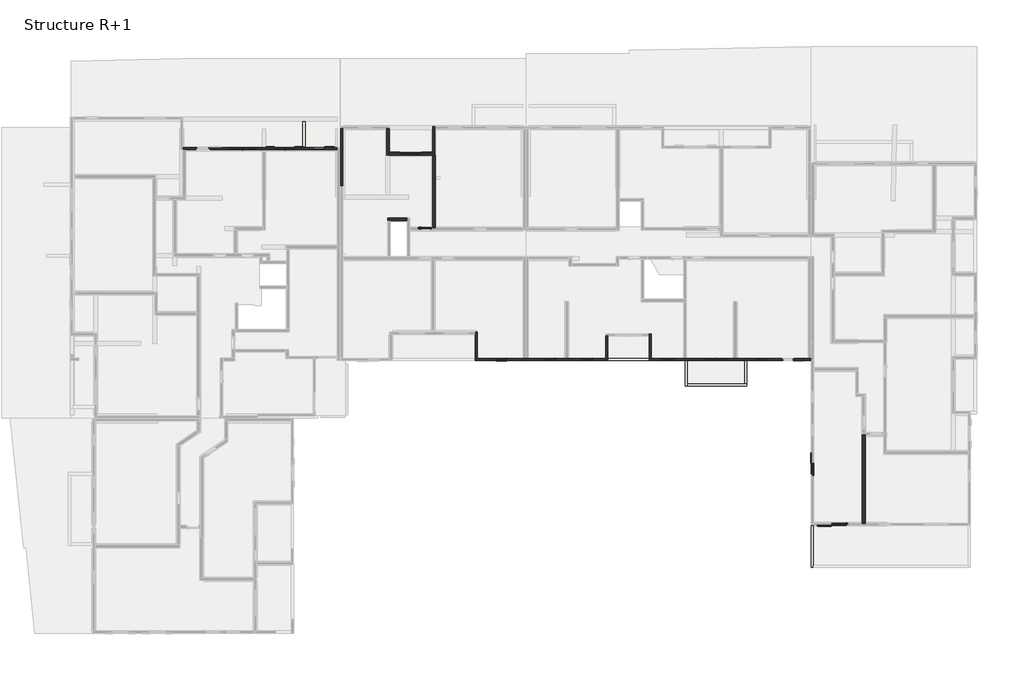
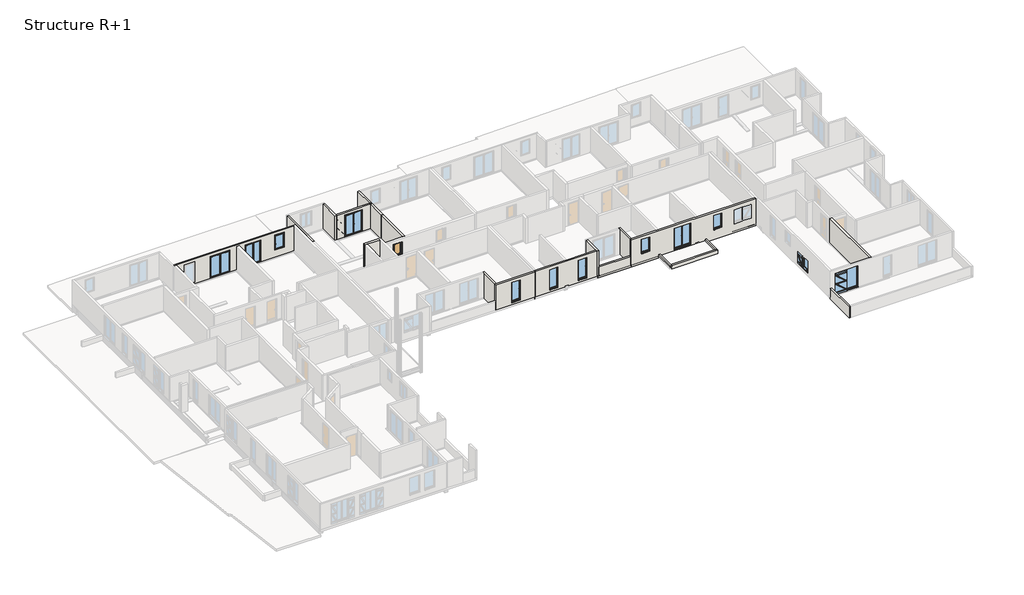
# One storey, part 4 of 11: 21 walls, 12 windows, 1 door.
"""IFC4 building model written with IfcOpenShell, lengths in millimetres."""

from ifc_helpers import new_model, si_unit, frame, origin, place, context, project, spatial, polyline, outline, extrude, faceted_brep, transform, mapped, element, save
from components import door_88e42b76, window_e9bb7084, window_2b853f76, window_0_80m_x_1_45m_ea18c776, window_0_80m_x_1_45m_510e4769, window_0_80m_x_2_05m_30132c93, window_1_10m_x_2_15m_8741d377, window_1_40m_x_2_15m_9bc1c939, window_1_60m_x_2_15m_1bfb613b, window_1_60m_x_2_15m_e7e592b5, window_1_80m_x_2_15m_7d3a4370

model = new_model("IFC4")

# Units and contexts
model_context = context("Model", 3, world=origin())
ifc_project = project(units=[si_unit("LENGTHUNIT", "METRE", prefix="MILLI")], contexts=[model_context])

# Site, building, storey
site = spatial("IfcSite", under=ifc_project)
building = spatial("IfcBuilding", under=site)
storey = spatial("IfcBuildingStorey", under=building, Name="Structure R+1", Elevation=3320.0)

# Door
placement = place(None, origin())
door_shape = door_88e42b76(model_context)
element("IfcDoor", 1, ObjectType="Entrée (avec angle d'ouverture) : PP Avec moulures (0.90 m x 2.15 m)", at=placement, inside=storey, context=model_context, shape_type="MappedRepresentation", body=[
    mapped(door_shape, transform((30232.3833363, 24372.4965623, 3320.0), x_axis=(1.0, 0.0, 0.0), y_axis=(0.0, 1.0, 0.0), z_axis=(0.0, 0.0, 1.0))),
])

# Walls
element("IfcWall", 2, ObjectType="Ext. Voile BA 16 + 2 + 2", at=placement, inside=storey, context=model_context, shape_type="Brep", body=[
    faceted_brep([(43935.5620379, 14457.4952897, 3030.0), (47212.2384282, 14457.4952897, 3030.0), (47212.2384282, 14457.4952897, 3230.0), (47132.2384282, 14457.4952897, 3230.0), (47132.2384282, 14457.4952897, 4130.0), (44015.5620379, 14457.4952897, 4130.0), (44015.5620379, 14457.4952897, 3230.0), (43935.5620379, 14457.4952897, 3230.0), (43935.5620379, 14617.4952897, 3030.0), (43935.5620379, 14617.4952897, 3230.0), (44015.5620379, 14617.4952897, 3230.0), (44015.5620379, 14617.4952897, 4130.0), (47132.2384282, 14617.4952897, 4130.0), (47132.2384282, 14617.4952897, 3230.0), (47212.2384282, 14617.4952897, 3230.0), (47212.2384282, 14617.4952897, 3030.0), (47212.2384282, 14457.838074, 3030.0), (47212.2384282, 14457.838074, 3230.0), (47132.2384282, 14457.838074, 3230.0)], [[[0, 1, 2, 3, 4, 5, 6, 7]], [[8, 9, 10, 11, 12, 13, 14, 15]], [[1, 0, 8, 15, 16]], [[5, 4, 12, 11]], [[2, 1, 16, 15, 14, 17]], [[13, 18, 3, 2, 17, 14]], [[4, 3, 18, 13, 12]], [[0, 7, 9, 8]], [[6, 10, 9, 7]], [[6, 5, 11, 10]]]),
])
element("IfcWall", 3, ObjectType="Ext. Voile BA 16 + 2 + 2", at=placement, inside=storey, context=model_context, shape_type="Brep", body=[
    faceted_brep([(49852.9658186, 14457.838074, 3230.0), (49852.9658186, 12537.4960288, 3230.0), (49852.9658186, 12537.4960288, 3380.0), (49852.9658186, 14457.838074, 3380.0), (50012.9658186, 14457.838074, 3230.0), (50012.9658186, 14457.838074, 3380.0), (50012.9658186, 12697.4960288, 3380.0), (50012.9658186, 12537.4960288, 3380.0), (50012.9658186, 12537.4960288, 3230.0)], [[[0, 1, 2, 3]], [[4, 5, 6, 7, 8]], [[1, 0, 4, 8]], [[3, 2, 7, 6, 5]], [[0, 3, 5, 4]], [[2, 1, 8, 7]]]),
])
element("IfcWall", 4, ObjectType="Ext. Voile BA 16 + 2 + 2", at=placement, inside=storey, context=model_context, shape_type="Brep", body=[
    faceted_brep([(50012.9658186, 12537.4960288, 3026.8), (54492.9658186, 12537.4960288, 3026.8), (54492.9658186, 12537.4960288, 3380.0), (50012.9658186, 12537.4960288, 3380.0), (50012.9658186, 12537.4960288, 3230.0), (50012.9658186, 12697.4960288, 3026.8), (50012.9658186, 12697.4960288, 3380.0), (54332.9658186, 12697.4960288, 3380.0), (54492.9658186, 12697.4960288, 3380.0), (54492.9658186, 12697.4960288, 3230.0), (54492.9658186, 12697.4960288, 3026.8)], [[[0, 1, 2, 3, 4]], [[5, 6, 7, 8, 9, 10]], [[1, 0, 5, 10]], [[3, 2, 8, 7, 6]], [[0, 4, 3, 6, 5]], [[2, 1, 10, 9, 8]]]),
])
element("IfcWall", 5, ObjectType="Ext. Voile BA 16 + 2 + 2", at=placement, inside=storey, context=model_context, shape_type="SweptSolid", body=[
    extrude(outline(polyline([(54492.9658186, 14457.838074), (54492.9658186, 12697.4960288), (54332.9658186, 12697.4960288), (54332.9658186, 14457.838074), (54492.9658186, 14457.838074)])), frame((0.0, 0.0, 3230.0), z_axis=(0.0, 0.0, 1.0), x_axis=(1.0, 0.0, 0.0)), (0.0, 0.0, 1.0), 150.0),
])
element("IfcWall", 6, ObjectType="Ext. Voile BA 16 + 2 + 2", at=placement, inside=storey, context=model_context, shape_type="Brep", body=[
    faceted_brep([(59332.9059955, 2104.0269927, 3030.0), (59332.9059955, -1157.3118451, 3030.0), (59332.9059955, -1157.3118451, 4130.0), (59332.9059955, 2024.0269927, 4130.0), (59332.9059955, 2024.0269927, 3230.0), (59332.9059955, 2104.0269927, 3230.0), (59492.9059955, 2024.0269927, 4130.0), (59492.9059955, -997.3118451, 4130.0), (59492.9059955, -1157.3118451, 4130.0), (59492.9059955, -1157.3118451, 3030.0), (59492.9059955, -1137.3140034, 3030.0), (59492.9059955, -1137.3140034, 3230.0), (59492.9059955, -997.3118451, 3230.0), (59492.9059955, 2024.0269927, 3230.0), (59352.9059955, 2104.0269927, 3030.0), (59353.9486146, 2104.0269927, 3030.0), (59353.9486146, -1137.3140034, 3030.0), (59352.9059955, 2104.0269927, 3230.0), (59353.9486146, 2104.0269927, 3230.0), (59352.9059955, 2024.0269927, 3230.0), (59353.9486146, 2024.0269927, 3230.0), (59353.9486146, -1137.3140034, 3230.0)], [[[0, 1, 2, 3, 4, 5]], [[6, 7, 8, 9, 10, 11, 12, 13]], [[1, 0, 14, 15, 16, 10, 9]], [[3, 2, 8, 7, 6]], [[2, 1, 9, 8]], [[0, 5, 17, 18, 15, 14]], [[5, 4, 19, 20, 18, 17]], [[3, 6, 13, 20, 19, 4]], [[21, 20, 13, 12, 11]], [[16, 21, 11, 10]], [[21, 16, 15, 18, 20]]]),
])
element("IfcWall", 7, ObjectType="Ext. Voile BA 16 + Isolant 120", at=placement, inside=storey, context=model_context, shape_type="Brep", body=[
    faceted_brep([(27364.3814808, 31947.4974719, 3230.0), (27364.3814808, 29952.4974719, 3230.0), (27364.3814808, 29952.4974719, 5830.0), (27364.3814808, 31947.4974719, 5830.0), (27524.3814808, 31947.4974719, 3230.0), (27524.3814808, 31947.4974719, 5830.0), (27524.3814808, 30112.4974719, 5830.0), (27524.3814808, 29952.4974719, 5830.0), (27524.3814808, 29952.4974719, 3230.0), (27524.3814808, 30112.4974719, 3230.0)], [[[0, 1, 2, 3]], [[4, 5, 6, 7, 8, 9]], [[1, 0, 4, 9, 8]], [[3, 2, 7, 6, 5]], [[0, 3, 5, 4]], [[2, 1, 8, 7]]]),
])
element("IfcWall", 8, ObjectType="Ext. Voile BA 16 + Isolant 120", at=placement, inside=storey, context=model_context, shape_type="Brep", body=[
    faceted_brep([(27524.3814808, 29952.4974719, 3230.0), (30802.3833363, 29952.4974719, 3230.0), (30984.3814808, 29952.4974719, 3230.0), (30984.3814808, 29952.4974719, 5830.0), (30802.3833363, 29952.4974719, 5830.0), (27524.3814808, 29952.4974719, 5830.0), (29974.3814808, 29952.4974719, 3355.0), (28374.3814808, 29952.4974719, 3355.0), (28324.3814808, 29952.4974719, 3355.0), (28324.3814808, 29952.4974719, 5555.0), (30024.3814808, 29952.4974719, 5555.0), (30024.3814808, 29952.4974719, 3355.0), (30984.3814808, 30112.4974719, 3230.0), (30824.3814808, 30112.4974719, 3230.0), (27524.3814808, 30112.4974719, 3230.0), (27524.3814808, 30112.4974719, 5830.0), (30824.3814808, 30112.4974719, 5830.0), (30984.3814808, 30112.4974719, 5830.0), (28374.3814808, 30112.4974719, 5505.0), (28374.3814808, 30112.4974719, 3346.5916612), (29974.3814808, 30112.4974719, 3346.5916612), (29974.3814808, 30112.4974719, 5505.0), (28374.3814808, 30052.4974719, 5505.0), (28374.3814808, 30052.4974719, 3355.0), (28374.3814808, 30032.4974719, 3355.0), (29974.3814808, 30032.4974719, 3355.0), (29974.3814808, 30052.4974719, 3355.0), (29974.3814808, 30052.4974719, 5505.0), (28364.3814808, 30052.4974719, 3355.0), (28364.3814808, 30002.4974719, 3355.0), (28324.3814808, 30002.4974719, 3355.0), (30024.3814808, 30002.4974719, 3355.0), (29984.3814808, 30002.4974719, 3355.0), (29984.3814808, 30052.4974719, 3355.0), (28324.3814808, 30002.4974719, 5555.0), (30024.3814808, 30002.4974719, 5555.0), (28364.3814808, 30002.4974719, 5515.0), (29984.3814808, 30002.4974719, 5515.0), (28364.3814808, 30052.4974719, 5515.0), (29984.3814808, 30052.4974719, 5515.0)], [[[0, 1, 2, 3, 4, 5], [6, 7, 8, 9, 10, 11]], [[12, 13, 14, 15, 16, 17], [18, 19, 20, 21]], [[2, 1, 0, 14, 13, 12]], [[5, 4, 3, 17, 16, 15]], [[0, 5, 15, 14]], [[3, 2, 12, 17]], [[22, 23, 24, 19, 18]], [[25, 26, 27, 21, 20]], [[24, 23, 28, 29, 30, 8, 7, 6, 11, 31, 32, 33, 26, 25]], [[27, 22, 18, 21]], [[24, 25, 20, 19]], [[8, 30, 34, 9]], [[32, 31, 35, 34, 30, 29, 36, 37]], [[29, 28, 38, 36]], [[23, 22, 27, 26, 33, 39, 38, 28]], [[9, 34, 35, 10]], [[37, 36, 38, 39]], [[31, 11, 10, 35]], [[33, 32, 37, 39]]]),
])
element("IfcWall", 9, ObjectType="Ext. Voile BA 16 + Isolant 120", at=placement, inside=storey, context=model_context, shape_type="Brep", body=[
    faceted_brep([(30984.3814808, 30112.4974719, 3230.0), (30984.3814808, 31947.4972516, 3230.0), (30984.3814808, 32107.4972516, 3230.0), (30984.3814808, 32107.4972516, 5830.0), (30984.3814808, 31947.4972516, 5830.0), (30984.3814808, 30112.4974719, 5830.0), (30824.3814808, 30112.4974719, 3230.0), (30824.3814808, 30112.4974719, 5830.0), (30824.3814808, 32107.4972516, 5830.0), (30824.3814808, 32107.4972516, 3230.0)], [[[0, 1, 2, 3, 4, 5]], [[6, 7, 8, 9]], [[2, 1, 0, 6, 9]], [[5, 4, 3, 8, 7]], [[0, 5, 7, 6]], [[3, 2, 9, 8]]]),
])
element("IfcWall", 10, ObjectType="Ext. Voile BA 16 + Isolant 120", at=placement, inside=storey, context=model_context, shape_type="Brep", body=[
    faceted_brep([(34012.3966699, 14597.8380864, 5830.0), (34172.3966699, 14597.8380864, 5830.0), (37647.390788, 14597.8380864, 5830.0), (37807.390788, 14597.8380864, 5830.0), (37808.3982717, 14597.8380864, 5830.0), (37808.3982717, 14597.8380864, 3030.0), (37807.390788, 14597.8380864, 3030.0), (37807.390788, 14597.8380864, 3230.0), (37647.390788, 14597.8380864, 3230.0), (34172.3966699, 14597.8380864, 3230.0), (34012.3966699, 14597.8380864, 3230.0), (35539.8937289, 14597.8380864, 3455.0), (36439.8937289, 14597.8380864, 3455.0), (36439.8937289, 14597.8380864, 5555.0), (35539.8937289, 14597.8380864, 5555.0), (37808.3982717, 14437.8380864, 5830.0), (34012.3966699, 14437.8380864, 5830.0), (34012.3966699, 14437.8380864, 3230.0), (37807.390788, 14437.8380864, 3230.0), (37807.390788, 14437.8380864, 3030.0), (37808.3982717, 14437.8380864, 3030.0), (36389.8937289, 14437.8380864, 5505.0), (36389.8937289, 14437.8380864, 3446.5916612), (35589.8937289, 14437.8380864, 3446.5916612), (35589.8937289, 14437.8380864, 5505.0), (36389.8937289, 14517.8380864, 3455.0), (36389.8937289, 14497.8380864, 5505.0), (36389.8937289, 14497.8380864, 3455.0), (35589.8937289, 14517.8380864, 3455.0), (35589.8937289, 14497.8380864, 3455.0), (35589.8937289, 14497.8380864, 5505.0), (36399.8937289, 14497.8380864, 3455.0), (36399.8937289, 14547.8380864, 3455.0), (36439.8937289, 14547.8380864, 3455.0), (35539.8937289, 14547.8380864, 3455.0), (35579.8937289, 14547.8380864, 3455.0), (35579.8937289, 14497.8380864, 3455.0), (36439.8937289, 14547.8380864, 5555.0), (36399.8937289, 14547.8380864, 5515.0), (35579.8937289, 14547.8380864, 5515.0), (35539.8937289, 14547.8380864, 5555.0), (36399.8937289, 14497.8380864, 5515.0), (35579.8937289, 14497.8380864, 5515.0)], [[[0, 1, 2, 3, 4, 5, 6, 7, 8, 9, 10], [11, 12, 13, 14]], [[15, 16, 17, 18, 19, 20], [21, 22, 23, 24]], [[5, 20, 19, 6]], [[4, 3, 2, 1, 0, 16, 15]], [[5, 4, 15, 20]], [[7, 18, 17, 10, 9, 8]], [[25, 22, 21, 26, 27]], [[23, 28, 29, 30, 24]], [[22, 25, 28, 23]], [[26, 21, 24, 30]], [[25, 27, 31, 32, 33, 12, 11, 34, 35, 36, 29, 28]], [[12, 33, 37, 13]], [[33, 32, 38, 39, 35, 34, 40, 37]], [[32, 31, 41, 38]], [[27, 26, 30, 29, 36, 42, 41, 31]], [[13, 37, 40, 14]], [[39, 38, 41, 42]], [[34, 11, 14, 40]], [[36, 35, 39, 42]], [[18, 7, 6, 19]], [[16, 0, 10, 17]]]),
])
element("IfcWall", 11, ObjectType="Ext. Voile BA 16 + Isolant 120", at=placement, inside=storey, context=model_context, shape_type="SweptSolid", body=[
    extrude(outline(polyline([(34172.3966699, 16591.4013077), (34172.3966699, 14597.8380864), (34012.3966699, 14597.8380864), (34012.3966699, 16591.4013077), (34172.3966699, 16591.4013077)])), frame((0.0, 0.0, 3230.0), z_axis=(0.0, 0.0, 1.0), x_axis=(1.0, 0.0, 0.0)), (0.0, 0.0, 1.0), 2600.0),
])
element("IfcWall", 12, ObjectType="Ext. Voile BA 16 + Isolant 120", at=placement, inside=storey, context=model_context, shape_type="SweptSolid", body=[
    extrude(outline(polyline([(24031.9389593, 31947.4974719), (24031.9389593, 27617.8380864), (23871.9389593, 27617.8380864), (23871.9389593, 31947.4974719), (24031.9389593, 31947.4974719)])), frame((0.0, 0.0, 3230.0), z_axis=(0.0, 0.0, 1.0), x_axis=(1.0, 0.0, 0.0)), (0.0, 0.0, 1.0), 2600.0),
])
element("IfcWall", 13, ObjectType="Ext. Voile BA 16 + Isolant 120", at=placement, inside=storey, context=model_context, shape_type="Brep", body=[
    faceted_brep([(11991.9058449, 30350.6398567, 3230.0), (12191.8651786, 30350.6398567, 3230.0), (23619.3795366, 30350.6398567, 3230.0), (23619.3795366, 30350.6398567, 5830.0), (12191.8651786, 30350.6398567, 5830.0), (11991.9058449, 30350.6398567, 5830.0), (13991.9058449, 30350.6398567, 3455.0), (12991.9058449, 30350.6398567, 3455.0), (12991.9058449, 30350.6398567, 5555.0), (13991.9058449, 30350.6398567, 5555.0), (17401.9058449, 30350.6398567, 3355.0), (15501.9058449, 30350.6398567, 3355.0), (15501.9058449, 30350.6398567, 5555.0), (17401.9058449, 30350.6398567, 5555.0), (20401.9058449, 30350.6398567, 3355.0), (18901.9058449, 30350.6398567, 3355.0), (18901.9058449, 30350.6398567, 5555.0), (20401.9058449, 30350.6398567, 5555.0), (22669.3795366, 30350.6398567, 4055.0), (21769.3795366, 30350.6398567, 4055.0), (21769.3795366, 30350.6398567, 5555.0), (22669.3795366, 30350.6398567, 5555.0), (11991.9058449, 30510.6398567, 3230.0), (11991.9058449, 30510.6398567, 5830.0), (21211.3655761, 30510.6398567, 5830.0), (23619.3795366, 30510.6398567, 5830.0), (23619.3795366, 30510.6398567, 3230.0), (13041.9058449, 30510.6398567, 5505.0), (13041.9058449, 30510.6398567, 3446.5916612), (13941.9058449, 30510.6398567, 3446.5916612), (13941.9058449, 30510.6398567, 5505.0), (15551.9058449, 30510.6398567, 5505.0), (15551.9058449, 30510.6398567, 3346.5916612), (17351.9058449, 30510.6398567, 3346.5916612), (17351.9058449, 30510.6398567, 5505.0), (18951.9058449, 30510.6398567, 5505.0), (18951.9058449, 30510.6398567, 3346.5916612), (20351.9058449, 30510.6398567, 3346.5916612), (20351.9058449, 30510.6398567, 5505.0), (21819.3795366, 30510.6398567, 5505.0), (21819.3795366, 30510.6398567, 3975.0), (22619.3795366, 30510.6398567, 3975.0), (22619.3795366, 30510.6398567, 5505.0), (23619.3795366, 30490.6398567, 5830.0), (13041.9058449, 30430.6398567, 3455.0), (13041.9058449, 30450.6398567, 5505.0), (13041.9058449, 30450.6398567, 3455.0), (13941.9058449, 30430.6398567, 3455.0), (13941.9058449, 30450.6398567, 3455.0), (13941.9058449, 30450.6398567, 5505.0), (13031.9058449, 30450.6398567, 3455.0), (13031.9058449, 30400.6398567, 3455.0), (12991.9058449, 30400.6398567, 3455.0), (13991.9058449, 30400.6398567, 3455.0), (13951.9058449, 30400.6398567, 3455.0), (13951.9058449, 30450.6398567, 3455.0), (12991.9058449, 30400.6398567, 5555.0), (13031.9058449, 30400.6398567, 5515.0), (13951.9058449, 30400.6398567, 5515.0), (13991.9058449, 30400.6398567, 5555.0), (13031.9058449, 30450.6398567, 5515.0), (13951.9058449, 30450.6398567, 5515.0), (15551.9058449, 30430.6398567, 3355.0), (15551.9058449, 30450.6398567, 5505.0), (15551.9058449, 30450.6398567, 3355.0), (17351.9058449, 30430.6398567, 3355.0), (17351.9058449, 30450.6398567, 3355.0), (17351.9058449, 30450.6398567, 5505.0), (15541.9058449, 30450.6398567, 3355.0), (15541.9058449, 30400.6398567, 3355.0), (15501.9058449, 30400.6398567, 3355.0), (17401.9058449, 30400.6398567, 3355.0), (17361.9058449, 30400.6398567, 3355.0), (17361.9058449, 30450.6398567, 3355.0), (15501.9058449, 30400.6398567, 5555.0), (15541.9058449, 30400.6398567, 5515.0), (17361.9058449, 30400.6398567, 5515.0), (17401.9058449, 30400.6398567, 5555.0), (15541.9058449, 30450.6398567, 5515.0), (17361.9058449, 30450.6398567, 5515.0), (18951.9058449, 30430.6398567, 3355.0), (18951.9058449, 30450.6398567, 5505.0), (18951.9058449, 30450.6398567, 3355.0), (20351.9058449, 30430.6398567, 3355.0), (20351.9058449, 30450.6398567, 3355.0), (20351.9058449, 30450.6398567, 5505.0), (18941.9058449, 30450.6398567, 3355.0), (18941.9058449, 30400.6398567, 3355.0), (18901.9058449, 30400.6398567, 3355.0), (20401.9058449, 30400.6398567, 3355.0), (20361.9058449, 30400.6398567, 3355.0), (20361.9058449, 30450.6398567, 3355.0), (18901.9058449, 30400.6398567, 5555.0), (18941.9058449, 30400.6398567, 5515.0), (20361.9058449, 30400.6398567, 5515.0), (20401.9058449, 30400.6398567, 5555.0), (18941.9058449, 30450.6398567, 5515.0), (20361.9058449, 30450.6398567, 5515.0), (21819.3795366, 30430.6398567, 4055.0), (21819.3795366, 30430.6398567, 3975.0), (21819.3795366, 30450.6398567, 5505.0), (21819.3795366, 30450.6398567, 4055.0), (22619.3795366, 30430.6398567, 3975.0), (22619.3795366, 30430.6398567, 4055.0), (22619.3795366, 30450.6398567, 4055.0), (22619.3795366, 30450.6398567, 5505.0), (21809.3795366, 30450.6398567, 4055.0), (21809.3795366, 30400.6398567, 4055.0), (21769.3795366, 30400.6398567, 4055.0), (22669.3795366, 30400.6398567, 4055.0), (22629.3795366, 30400.6398567, 4055.0), (22629.3795366, 30450.6398567, 4055.0), (21769.3795366, 30400.6398567, 5555.0), (21809.3795366, 30400.6398567, 5515.0), (22629.3795366, 30400.6398567, 5515.0), (22669.3795366, 30400.6398567, 5555.0), (21809.3795366, 30450.6398567, 5515.0), (22629.3795366, 30450.6398567, 5515.0)], [[[0, 1, 2, 3, 4, 5], [6, 7, 8, 9], [10, 11, 12, 13], [14, 15, 16, 17], [18, 19, 20, 21]], [[22, 23, 24, 25, 26], [27, 28, 29, 30], [31, 32, 33, 34], [35, 36, 37, 38], [39, 40, 41, 42]], [[2, 1, 0, 22, 26]], [[5, 4, 3, 43, 25, 24, 23]], [[0, 5, 23, 22]], [[44, 28, 27, 45, 46]], [[29, 47, 48, 49, 30]], [[44, 47, 29, 28]], [[27, 30, 49, 45]], [[47, 44, 46, 50, 51, 52, 7, 6, 53, 54, 55, 48]], [[7, 52, 56, 8]], [[52, 51, 57, 58, 54, 53, 59, 56]], [[51, 50, 60, 57]], [[50, 46, 45, 49, 48, 55, 61, 60]], [[8, 56, 59, 9]], [[58, 57, 60, 61]], [[59, 53, 6, 9]], [[54, 58, 61, 55]], [[62, 32, 31, 63, 64]], [[33, 65, 66, 67, 34]], [[62, 65, 33, 32]], [[31, 34, 67, 63]], [[65, 62, 64, 68, 69, 70, 11, 10, 71, 72, 73, 66]], [[11, 70, 74, 12]], [[70, 69, 75, 76, 72, 71, 77, 74]], [[69, 68, 78, 75]], [[68, 64, 63, 67, 66, 73, 79, 78]], [[12, 74, 77, 13]], [[76, 75, 78, 79]], [[77, 71, 10, 13]], [[72, 76, 79, 73]], [[80, 36, 35, 81, 82]], [[37, 83, 84, 85, 38]], [[80, 83, 37, 36]], [[35, 38, 85, 81]], [[83, 80, 82, 86, 87, 88, 15, 14, 89, 90, 91, 84]], [[15, 88, 92, 16]], [[88, 87, 93, 94, 90, 89, 95, 92]], [[87, 86, 96, 93]], [[86, 82, 81, 85, 84, 91, 97, 96]], [[16, 92, 95, 17]], [[94, 93, 96, 97]], [[95, 89, 14, 17]], [[90, 94, 97, 91]], [[98, 99, 40, 39, 100, 101]], [[102, 103, 104, 105, 42, 41]], [[99, 102, 41, 40]], [[99, 98, 103, 102]], [[39, 42, 105, 100]], [[103, 98, 101, 106, 107, 108, 19, 18, 109, 110, 111, 104]], [[19, 108, 112, 20]], [[108, 107, 113, 114, 110, 109, 115, 112]], [[107, 106, 116, 113]], [[106, 101, 100, 105, 104, 111, 117, 116]], [[20, 112, 115, 21]], [[114, 113, 116, 117]], [[115, 109, 18, 21]], [[110, 114, 117, 111]], [[2, 26, 25, 43, 3]]]),
])
element("IfcWall", 14, ObjectType="Ext. Voile BA 16 + Isolant 120", at=placement, inside=storey, context=model_context, shape_type="Brep", body=[
    faceted_brep([(59292.9632272, 14617.838074, 3030.0), (47212.2384282, 14617.838074, 3030.0), (47212.2384282, 14617.838074, 3230.0), (47132.2384282, 14617.838074, 3230.0), (47132.2384282, 14617.838074, 5830.0), (47292.2384282, 14617.838074, 5830.0), (49725.0121044, 14617.838074, 5830.0), (49925.0121044, 14617.838074, 5830.0), (53510.2357198, 14617.838074, 5830.0), (53710.2357198, 14617.838074, 5830.0), (59132.9632272, 14617.838074, 5830.0), (59292.9632272, 14617.838074, 5830.0), (59292.9632272, 14617.838074, 3230.0), (51321.5533494, 14617.838074, 3355.0), (53021.5533494, 14617.838074, 3355.0), (53021.5533494, 14617.838074, 5555.0), (51321.5533494, 14617.838074, 5555.0), (55131.1686301, 14617.838074, 4055.0), (56031.1686301, 14617.838074, 4055.0), (56031.1686301, 14617.838074, 5555.0), (55131.1686301, 14617.838074, 5555.0), (48128.6252663, 14617.838074, 4055.0), (49028.6252663, 14617.838074, 4055.0), (49028.6252663, 14617.838074, 5555.0), (48128.6252663, 14617.838074, 5555.0), (57127.7427462, 14617.838074, 4055.0), (58027.7427462, 14617.838074, 4055.0), (58027.7427462, 14617.838074, 5455.0), (57127.7427462, 14617.838074, 5455.0), (59292.9632272, 14457.838074, 3030.0), (59292.9632272, 14457.838074, 5830.0), (47132.2384282, 14457.838074, 5830.0), (47132.2384282, 14457.838074, 3230.0), (47212.2384282, 14457.838074, 3230.0), (47212.2384282, 14457.838074, 3030.0), (52971.5533494, 14457.838074, 5505.0), (52971.5533494, 14457.838074, 3346.5916612), (51371.5533494, 14457.838074, 3346.5916612), (51371.5533494, 14457.838074, 5505.0), (55181.1686301, 14457.838074, 4046.5916612), (55181.1686301, 14457.838074, 5505.0), (55981.1686301, 14457.838074, 5505.0), (55981.1686301, 14457.838074, 4046.5916612), (48978.6252663, 14457.838074, 5505.0), (48978.6252663, 14457.838074, 4046.5916612), (48178.6252663, 14457.838074, 4046.5916612), (48178.6252663, 14457.838074, 5505.0), (57177.7427462, 14457.838074, 3975.0), (57177.7427462, 14457.838074, 5405.0), (57977.7427462, 14457.838074, 5405.0), (57977.7427462, 14457.838074, 3975.0), (47212.2384282, 14617.4952897, 3030.0), (52971.5533494, 14537.838074, 3355.0), (52971.5533494, 14517.838074, 5505.0), (52971.5533494, 14517.838074, 3355.0), (51371.5533494, 14537.838074, 3355.0), (51371.5533494, 14517.838074, 3355.0), (51371.5533494, 14517.838074, 5505.0), (52981.5533494, 14517.838074, 3355.0), (52981.5533494, 14567.838074, 3355.0), (53021.5533494, 14567.838074, 3355.0), (51321.5533494, 14567.838074, 3355.0), (51361.5533494, 14567.838074, 3355.0), (51361.5533494, 14517.838074, 3355.0), (53021.5533494, 14567.838074, 5555.0), (52981.5533494, 14567.838074, 5515.0), (51361.5533494, 14567.838074, 5515.0), (51321.5533494, 14567.838074, 5555.0), (52981.5533494, 14517.838074, 5515.0), (51361.5533494, 14517.838074, 5515.0), (55181.1686301, 14537.838074, 4055.0), (55181.1686301, 14517.838074, 4055.0), (55181.1686301, 14517.838074, 5505.0), (55981.1686301, 14517.838074, 5505.0), (55981.1686301, 14517.838074, 4055.0), (55981.1686301, 14537.838074, 4055.0), (55991.1686301, 14517.838074, 4055.0), (55991.1686301, 14567.838074, 4055.0), (56031.1686301, 14567.838074, 4055.0), (55131.1686301, 14567.838074, 4055.0), (55171.1686301, 14567.838074, 4055.0), (55171.1686301, 14517.838074, 4055.0), (55131.1686301, 14567.838074, 5555.0), (56031.1686301, 14567.838074, 5555.0), (55991.1686301, 14567.838074, 5515.0), (55171.1686301, 14567.838074, 5515.0), (55171.1686301, 14517.838074, 5515.0), (55991.1686301, 14517.838074, 5515.0), (48978.6252663, 14537.838074, 4055.0), (48978.6252663, 14517.838074, 5505.0), (48978.6252663, 14517.838074, 4055.0), (48178.6252663, 14537.838074, 4055.0), (48178.6252663, 14517.838074, 4055.0), (48178.6252663, 14517.838074, 5505.0), (48988.6252663, 14517.838074, 4055.0), (48988.6252663, 14567.838074, 4055.0), (49028.6252663, 14567.838074, 4055.0), (48128.6252663, 14567.838074, 4055.0), (48168.6252663, 14567.838074, 4055.0), (48168.6252663, 14517.838074, 4055.0), (49028.6252663, 14567.838074, 5555.0), (48988.6252663, 14567.838074, 5515.0), (48168.6252663, 14567.838074, 5515.0), (48128.6252663, 14567.838074, 5555.0), (48988.6252663, 14517.838074, 5515.0), (48168.6252663, 14517.838074, 5515.0), (47212.2384282, 14617.4952897, 3230.0), (47132.2384282, 14617.4952897, 3230.0), (57177.7427462, 14537.838074, 4055.0), (57177.7427462, 14517.838074, 4055.0), (57177.7427462, 14517.838074, 5405.0), (57177.7427462, 14537.838074, 3975.0), (57977.7427462, 14537.838074, 3975.0), (57977.7427462, 14517.838074, 5405.0), (57977.7427462, 14517.838074, 4055.0), (57977.7427462, 14537.838074, 4055.0), (57987.7427462, 14517.838074, 4055.0), (57987.7427462, 14567.838074, 4055.0), (58027.7427462, 14567.838074, 4055.0), (57127.7427462, 14567.838074, 4055.0), (57167.7427462, 14567.838074, 4055.0), (57167.7427462, 14517.838074, 4055.0), (57127.7427462, 14567.838074, 5455.0), (58027.7427462, 14567.838074, 5455.0), (57987.7427462, 14567.838074, 5415.0), (57167.7427462, 14567.838074, 5415.0), (57167.7427462, 14517.838074, 5415.0), (57987.7427462, 14517.838074, 5415.0)], [[[0, 1, 2, 3, 4, 5, 6, 7, 8, 9, 10, 11, 12], [13, 14, 15, 16], [17, 18, 19, 20], [21, 22, 23, 24], [25, 26, 27, 28]], [[29, 30, 31, 32, 33, 34], [35, 36, 37, 38], [39, 40, 41, 42], [43, 44, 45, 46], [47, 48, 49, 50]], [[1, 0, 29, 34, 51]], [[11, 10, 9, 8, 7, 6, 5, 4, 31, 30]], [[0, 12, 11, 30, 29]], [[52, 36, 35, 53, 54]], [[37, 55, 56, 57, 38]], [[52, 55, 37, 36]], [[35, 38, 57, 53]], [[55, 52, 54, 58, 59, 60, 14, 13, 61, 62, 63, 56]], [[14, 60, 64, 15]], [[60, 59, 65, 66, 62, 61, 67, 64]], [[59, 58, 68, 65]], [[58, 54, 53, 57, 56, 63, 69, 68]], [[15, 64, 67, 16]], [[66, 65, 68, 69]], [[67, 61, 13, 16]], [[62, 66, 69, 63]], [[70, 71, 72, 40, 39]], [[42, 41, 73, 74, 75]], [[70, 39, 42, 75]], [[40, 72, 73, 41]], [[75, 74, 76, 77, 78, 18, 17, 79, 80, 81, 71, 70]], [[17, 20, 82, 79]], [[79, 82, 83, 78, 77, 84, 85, 80]], [[80, 85, 86, 81]], [[81, 86, 87, 76, 74, 73, 72, 71]], [[20, 19, 83, 82]], [[84, 87, 86, 85]], [[83, 19, 18, 78]], [[77, 76, 87, 84]], [[88, 44, 43, 89, 90]], [[45, 91, 92, 93, 46]], [[88, 91, 45, 44]], [[43, 46, 93, 89]], [[91, 88, 90, 94, 95, 96, 22, 21, 97, 98, 99, 92]], [[22, 96, 100, 23]], [[96, 95, 101, 102, 98, 97, 103, 100]], [[95, 94, 104, 101]], [[94, 90, 89, 93, 92, 99, 105, 104]], [[23, 100, 103, 24]], [[102, 101, 104, 105]], [[103, 97, 21, 24]], [[98, 102, 105, 99]], [[2, 1, 51, 34, 33, 106]], [[32, 107, 3, 2, 106, 33]], [[108, 109, 110, 48, 47, 111]], [[112, 50, 49, 113, 114, 115]], [[111, 47, 50, 112]], [[48, 110, 113, 49]], [[115, 114, 116, 117, 118, 26, 25, 119, 120, 121, 109, 108]], [[25, 28, 122, 119]], [[119, 122, 123, 118, 117, 124, 125, 120]], [[120, 125, 126, 121]], [[121, 126, 127, 116, 114, 113, 110, 109]], [[28, 27, 123, 122]], [[124, 127, 126, 125]], [[123, 27, 26, 118]], [[117, 116, 127, 124]], [[111, 112, 115, 108]], [[3, 107, 32, 31, 4]]]),
])
element("IfcWall", 15, ObjectType="Ext. Voile BA 16 + Isolant 120", at=placement, inside=storey, context=model_context, shape_type="Brep", body=[
    faceted_brep([(47292.2384282, 14617.838074, 5830.0), (47292.2384282, 14617.838074, 3230.0), (47292.2384282, 16448.2809457, 3230.0), (47292.2384282, 16448.2809457, 5830.0), (47132.2384282, 14617.838074, 3230.0), (47132.2384282, 14617.838074, 5830.0), (47132.2384282, 16288.2809457, 5830.0), (47132.2384282, 16448.2809457, 5830.0), (47132.2384282, 16448.2809457, 3230.0), (47132.2384282, 16288.2809457, 3230.0), (47212.2384282, 14617.838074, 3230.0)], [[[0, 1, 2, 3]], [[4, 5, 6, 7, 8, 9]], [[2, 1, 10, 4, 9, 8]], [[0, 3, 7, 6, 5]], [[3, 2, 8, 7]], [[0, 5, 4, 10, 1]]]),
])
element("IfcWall", 16, ObjectType="Ext. Voile BA 16 + Isolant 120", at=placement, inside=storey, context=model_context, shape_type="Brep", body=[
    faceted_brep([(43855.5620379, 16288.2809457, 3230.0), (43855.5620379, 14617.4952897, 3230.0), (43855.5620379, 14457.4952897, 3230.0), (43855.5620379, 14457.4952897, 5830.0), (43855.5620379, 14617.4952897, 5830.0), (43855.5620379, 16288.2809457, 5830.0), (44015.5620379, 16288.2809457, 3230.0), (44015.5620379, 16288.2809457, 5830.0), (44015.5620379, 14457.4952897, 5830.0), (44015.5620379, 14457.4952897, 4130.0), (44015.5620379, 14457.4952897, 3230.0), (44015.5620379, 14617.4952897, 3230.0), (43935.5620379, 14457.4952897, 3230.0)], [[[0, 1, 2, 3, 4, 5]], [[6, 7, 8, 9, 10, 11]], [[2, 1, 0, 6, 11, 10, 12]], [[5, 4, 3, 8, 7]], [[0, 5, 7, 6]], [[2, 12, 10, 9, 8, 3]]]),
])
element("IfcWall", 17, ObjectType="Ext. Voile BA 16 + Isolant 120", at=placement, inside=storey, context=model_context, shape_type="Brep", body=[
    faceted_brep([(37867.390788, 14617.4952897, 5830.0), (38027.390788, 14617.4952897, 5830.0), (40827.3913304, 14617.4952897, 5830.0), (41027.3913304, 14617.4952897, 5830.0), (43855.5620379, 14617.4952897, 5830.0), (43855.5620379, 14617.4952897, 3230.0), (41027.3913304, 14617.4952897, 3230.0), (40827.3913304, 14617.4952897, 3230.0), (38027.390788, 14617.4952897, 3230.0), (37867.390788, 14617.4952897, 3230.0), (42000.5620379, 14617.4952897, 3455.0), (42900.5620379, 14617.4952897, 3455.0), (42900.5620379, 14617.4952897, 5555.0), (42000.5620379, 14617.4952897, 5555.0), (39217.3913304, 14617.4952897, 3455.0), (40117.3913304, 14617.4952897, 3455.0), (40117.3913304, 14617.4952897, 5555.0), (39217.3913304, 14617.4952897, 5555.0), (43855.5620379, 14457.4952897, 5830.0), (37867.390788, 14457.4952897, 5830.0), (37867.390788, 14457.4952897, 3230.0), (43855.5620379, 14457.4952897, 3230.0), (42850.5620379, 14457.4952897, 5505.0), (42850.5620379, 14457.4952897, 3446.5916612), (42050.5620379, 14457.4952897, 3446.5916612), (42050.5620379, 14457.4952897, 5505.0), (40067.3913304, 14457.4952897, 5505.0), (40067.3913304, 14457.4952897, 3446.5916612), (39267.3913304, 14457.4952897, 3446.5916612), (39267.3913304, 14457.4952897, 5505.0), (42850.5620379, 14537.4952897, 3455.0), (42850.5620379, 14517.4952897, 5505.0), (42850.5620379, 14517.4952897, 3455.0), (42050.5620379, 14537.4952897, 3455.0), (42050.5620379, 14517.4952897, 3455.0), (42050.5620379, 14517.4952897, 5505.0), (42860.5620379, 14517.4952897, 3455.0), (42860.5620379, 14567.4952897, 3455.0), (42900.5620379, 14567.4952897, 3455.0), (42000.5620379, 14567.4952897, 3455.0), (42040.5620379, 14567.4952897, 3455.0), (42040.5620379, 14517.4952897, 3455.0), (42900.5620379, 14567.4952897, 5555.0), (42860.5620379, 14567.4952897, 5515.0), (42040.5620379, 14567.4952897, 5515.0), (42000.5620379, 14567.4952897, 5555.0), (42860.5620379, 14517.4952897, 5515.0), (42040.5620379, 14517.4952897, 5515.0), (40067.3913304, 14537.4952897, 3455.0), (40067.3913304, 14517.4952897, 5505.0), (40067.3913304, 14517.4952897, 3455.0), (39267.3913304, 14537.4952897, 3455.0), (39267.3913304, 14517.4952897, 3455.0), (39267.3913304, 14517.4952897, 5505.0), (40077.3913304, 14517.4952897, 3455.0), (40077.3913304, 14567.4952897, 3455.0), (40117.3913304, 14567.4952897, 3455.0), (39217.3913304, 14567.4952897, 3455.0), (39257.3913304, 14567.4952897, 3455.0), (39257.3913304, 14517.4952897, 3455.0), (40117.3913304, 14567.4952897, 5555.0), (40077.3913304, 14567.4952897, 5515.0), (39257.3913304, 14567.4952897, 5515.0), (39217.3913304, 14567.4952897, 5555.0), (40077.3913304, 14517.4952897, 5515.0), (39257.3913304, 14517.4952897, 5515.0)], [[[0, 1, 2, 3, 4, 5, 6, 7, 8, 9], [10, 11, 12, 13], [14, 15, 16, 17]], [[18, 19, 20, 21], [22, 23, 24, 25], [26, 27, 28, 29]], [[4, 3, 2, 1, 0, 19, 18]], [[19, 0, 9, 20]], [[30, 23, 22, 31, 32]], [[24, 33, 34, 35, 25]], [[23, 30, 33, 24]], [[31, 22, 25, 35]], [[30, 32, 36, 37, 38, 11, 10, 39, 40, 41, 34, 33]], [[11, 38, 42, 12]], [[38, 37, 43, 44, 40, 39, 45, 42]], [[37, 36, 46, 43]], [[32, 31, 35, 34, 41, 47, 46, 36]], [[12, 42, 45, 13]], [[44, 43, 46, 47]], [[39, 10, 13, 45]], [[41, 40, 44, 47]], [[48, 27, 26, 49, 50]], [[28, 51, 52, 53, 29]], [[27, 48, 51, 28]], [[49, 26, 29, 53]], [[48, 50, 54, 55, 56, 15, 14, 57, 58, 59, 52, 51]], [[15, 56, 60, 16]], [[56, 55, 61, 62, 58, 57, 63, 60]], [[55, 54, 64, 61]], [[50, 49, 53, 52, 59, 65, 64, 54]], [[16, 60, 63, 17]], [[62, 61, 64, 65]], [[57, 14, 17, 63]], [[59, 58, 62, 65]], [[4, 18, 21, 5]], [[9, 8, 7, 6, 5, 21, 20]]]),
])
element("IfcWall", 18, ObjectType="Voile BA 20", at=placement, inside=storey, context=model_context, shape_type="SweptSolid", body=[
    extrude(outline(polyline([(30802.3833363, 24472.4965623), (30802.3833363, 28084.2382335), (31002.3833363, 28084.2382335), (31002.3833363, 24472.4965623), (30802.3833363, 24472.4965623)])), frame((0.0, 0.0, 3230.0), z_axis=(0.0, 0.0, 1.0), x_axis=(1.0, 0.0, 0.0)), (0.0, 0.0, 1.0), 2600.0),
])
element("IfcWall", 19, ObjectType="Voile BA 20", at=placement, inside=storey, context=model_context, shape_type="Brep", body=[
    faceted_brep([(63197.9323598, 8825.43291, 3230.0), (63197.9323598, 2264.0303718, 3230.0), (63197.9323598, 2184.0269927, 3230.0), (63197.9323598, 2184.0269927, 3320.0), (63197.9323598, 2184.0269927, 5830.0), (63197.9323598, 8825.43291, 5830.0), (63397.9323598, 8825.43291, 3230.0), (63397.9323598, 8825.43291, 3320.0), (63397.9323598, 8825.43291, 5830.0), (63397.9323598, 2184.0269927, 5830.0), (63397.9323598, 2184.0269927, 3320.0), (63397.9323598, 2184.0269927, 3230.0), (63397.9323598, 2264.0303718, 3230.0)], [[[0, 1, 2, 3, 4, 5]], [[6, 7, 8, 9, 10, 11, 12]], [[2, 1, 0, 6, 12, 11]], [[5, 4, 9, 8]], [[4, 3, 2, 11, 10, 9]], [[0, 5, 8, 7, 6]]]),
])
element("IfcWall", 20, ObjectType="Voile BA 20", at=placement, inside=storey, context=model_context, shape_type="Brep", body=[
    faceted_brep([(21211.383495, 30490.6398567, 2710.0), (21211.383495, 32800.6398567, 2710.0), (21211.383495, 32800.6398567, 3230.0), (21211.383495, 30490.6398567, 3230.0), (21011.383495, 30490.6398567, 2710.0), (21011.383495, 30490.6398567, 3230.0), (21011.383495, 32600.6398567, 3230.0), (21011.383495, 32800.6398567, 3230.0), (21011.383495, 32800.6398567, 2710.0), (21011.383495, 32600.6398567, 2710.0)], [[[0, 1, 2, 3]], [[4, 5, 6, 7, 8, 9]], [[2, 1, 8, 7]], [[1, 0, 4, 9, 8]], [[3, 2, 7, 6, 5]], [[0, 3, 5, 4]]]),
])
element("IfcWall", 21, ObjectType="Voile BA 20 + Isolant 120", at=placement, inside=storey, context=model_context, shape_type="Brep", body=[
    faceted_brep([(30802.3833363, 29952.4974719, 3230.0), (30802.3833363, 28084.2382335, 3230.0), (30802.3833363, 28084.2382335, 5830.0), (30802.3833363, 29952.4974719, 5830.0), (31002.3833363, 29952.4974719, 3230.0), (31002.3833363, 29952.4974719, 5830.0), (31002.3833363, 28084.2382335, 5830.0), (31002.3833363, 28084.2382335, 3230.0), (30984.3814808, 29952.4974719, 3230.0), (30984.3814808, 29952.4974719, 5830.0)], [[[0, 1, 2, 3]], [[4, 5, 6, 7]], [[1, 0, 8, 4, 7]], [[2, 1, 7, 6]], [[3, 2, 6, 5, 9]], [[0, 3, 9, 5, 4, 8]]]),
])
element("IfcWall", 22, ObjectType="Voile BA 20 + Isolant 60", at=placement, inside=storey, context=model_context, shape_type="Brep", body=[
    faceted_brep([(28898.3678937, 25207.8260092, 3230.0), (27426.9395184, 25207.8260092, 3230.0), (27426.9395184, 25207.8260092, 5830.0), (28898.3678937, 25207.8260092, 5830.0), (28898.3678937, 25007.8260092, 3230.0), (28898.3678937, 25007.8260092, 5830.0), (27626.9395184, 25007.8260092, 5830.0), (27426.9395184, 25007.8260092, 5830.0), (27426.9395184, 25007.8260092, 3230.0), (27626.9395184, 25007.8260092, 3230.0)], [[[0, 1, 2, 3]], [[4, 5, 6, 7, 8, 9]], [[1, 0, 4, 9, 8]], [[3, 2, 7, 6, 5]], [[0, 3, 5, 4]], [[2, 1, 8, 7]]]),
])

# Windows
window_shape = window_e9bb7084(model_context)
element("IfcWindow", 23, ObjectType="1 Vantail droit - Volet et petits bois : 0.80m x 1.45m - Appui Béton", at=placement, inside=storey, context=model_context, shape_type="MappedRepresentation", body=[
    mapped(window_shape, transform((22219.3795366, 30430.6398567, 3255.0), x_axis=(1.0, 0.0, 0.0), y_axis=(0.0, 1.0, 0.0), z_axis=(0.0, 0.0, 1.0))),
])
window_2_shape = window_2b853f76(model_context)
element("IfcWindow", 24, ObjectType="1 Vantail droit - Volet et petits bois : 0.80m x 1.15m - Appui Béton", at=placement, inside=storey, context=model_context, shape_type="MappedRepresentation", body=[
    mapped(window_2_shape, transform((59432.9059955, 6255.2011252, 2655.0), x_axis=(0.0, 1.0, 0.0), y_axis=(-1.0, 0.0, 0.0), z_axis=(0.0, 0.0, 1.0))),
])
window_0_80m_x_1_45m_shape = window_0_80m_x_1_45m_ea18c776(model_context)
element("IfcWindow", 25, ObjectType="PF 1 Vantail - Droite : 0.80m x 1.45m", at=placement, inside=storey, context=model_context, shape_type="MappedRepresentation", body=[
    mapped(window_0_80m_x_1_45m_shape, transform((48578.6252663, 14537.838074, 4020.0), x_axis=(-1.0, 0.0, 0.0), y_axis=(0.0, -1.0, 0.0), z_axis=(0.0, 0.0, 1.0))),
])
window_0_80m_x_1_45m_2_shape = window_0_80m_x_1_45m_510e4769(model_context)
element("IfcWindow", 26, ObjectType="PF 1 Vantail - Droite : 0.80m x 1.45m", at=placement, inside=storey, context=model_context, shape_type="MappedRepresentation", body=[
    mapped(window_0_80m_x_1_45m_2_shape, transform((55581.1686301, 14537.838074, 4020.0), x_axis=(1.0, 0.0, 0.0), y_axis=(0.0, 1.0, 0.0), z_axis=(0.0, 0.0, 1.0))),
])
window_0_80m_x_2_05m_shape = window_0_80m_x_2_05m_30132c93(model_context)
element("IfcWindow", 27, ObjectType="PF 1 Vantail - Droite : 0.80m x 2.05m", at=placement, inside=storey, context=model_context, shape_type="MappedRepresentation", body=[
    mapped(window_0_80m_x_2_05m_shape, transform((42450.5620379, 14537.4952897, 3420.0), x_axis=(-1.0, 0.0, 0.0), y_axis=(0.0, -1.0, 0.0), z_axis=(0.0, 0.0, 1.0))),
])
element("IfcWindow", 28, ObjectType="PF 1 Vantail - Droite : 0.80m x 2.05m", at=placement, inside=storey, context=model_context, shape_type="MappedRepresentation", body=[
    mapped(window_0_80m_x_2_05m_shape, transform((39667.3913304, 14537.4952897, 3420.0), x_axis=(-1.0, 0.0, 0.0), y_axis=(0.0, -1.0, 0.0), z_axis=(0.0, 0.0, 1.0))),
])
element("IfcWindow", 29, ObjectType="PF 1 Vantail - Droite : 0.80m x 2.05m", at=placement, inside=storey, context=model_context, shape_type="MappedRepresentation", body=[
    mapped(window_0_80m_x_2_05m_shape, transform((35989.8937289, 14517.8380864, 3420.0), x_axis=(-1.0, 0.0, 0.0), y_axis=(0.0, -1.0, 0.0), z_axis=(0.0, 0.0, 1.0))),
])
window_1_10m_x_2_15m_shape = window_1_10m_x_2_15m_8741d377(model_context)
element("IfcWindow", 30, ObjectType="PF 1 Vantail droit - Volet et petits bois : 1.10m x 2.15m", at=placement, inside=storey, context=model_context, shape_type="MappedRepresentation", body=[
    mapped(window_1_10m_x_2_15m_shape, transform((61478.3161909, 2104.0269927, 3320.0), x_axis=(-1.0, 0.0, 0.0), y_axis=(0.0, -1.0, 0.0), z_axis=(0.0, 0.0, 1.0))),
])
window_1_40m_x_2_15m_shape = window_1_40m_x_2_15m_9bc1c939(model_context)
element("IfcWindow", 31, ObjectType="PF 2 Vantaux droits - Volets et petits bois : 1.40m x 2.15m", at=placement, inside=storey, context=model_context, shape_type="MappedRepresentation", body=[
    mapped(window_1_40m_x_2_15m_shape, transform((19651.9058449, 30430.6398567, 3320.0), x_axis=(1.0, 0.0, 0.0), y_axis=(0.0, 1.0, 0.0), z_axis=(0.0, 0.0, 1.0))),
])
window_1_60m_x_2_15m_shape = window_1_60m_x_2_15m_1bfb613b(model_context)
element("IfcWindow", 32, ObjectType="PF 2 Vantaux - Droits : 1.60m x 2.15m", at=placement, inside=storey, context=model_context, shape_type="MappedRepresentation", body=[
    mapped(window_1_60m_x_2_15m_shape, transform((52171.5533494, 14537.838074, 3320.0), x_axis=(-1.0, 0.0, 0.0), y_axis=(0.0, -1.0, 0.0), z_axis=(0.0, 0.0, 1.0))),
])
window_1_60m_x_2_15m_2_shape = window_1_60m_x_2_15m_e7e592b5(model_context)
element("IfcWindow", 33, ObjectType="PF 2 Vantaux droits - Volets et petits bois : 1.60m x 2.15m", at=placement, inside=storey, context=model_context, shape_type="MappedRepresentation", body=[
    mapped(window_1_60m_x_2_15m_2_shape, transform((29174.3814808, 30032.4974719, 3320.0), x_axis=(1.0, 0.0, 0.0), y_axis=(0.0, 1.0, 0.0), z_axis=(0.0, 0.0, 1.0))),
])
window_1_80m_x_2_15m_shape = window_1_80m_x_2_15m_7d3a4370(model_context)
element("IfcWindow", 34, ObjectType="PF 2 Vantaux - Droits : 1.80m x 2.15m", at=placement, inside=storey, context=model_context, shape_type="MappedRepresentation", body=[
    mapped(window_1_80m_x_2_15m_shape, transform((16451.9058449, 30430.6398567, 3320.0), x_axis=(1.0, 0.0, 0.0), y_axis=(0.0, 1.0, 0.0), z_axis=(0.0, 0.0, 1.0))),
])

save(model, "model.ifc")
